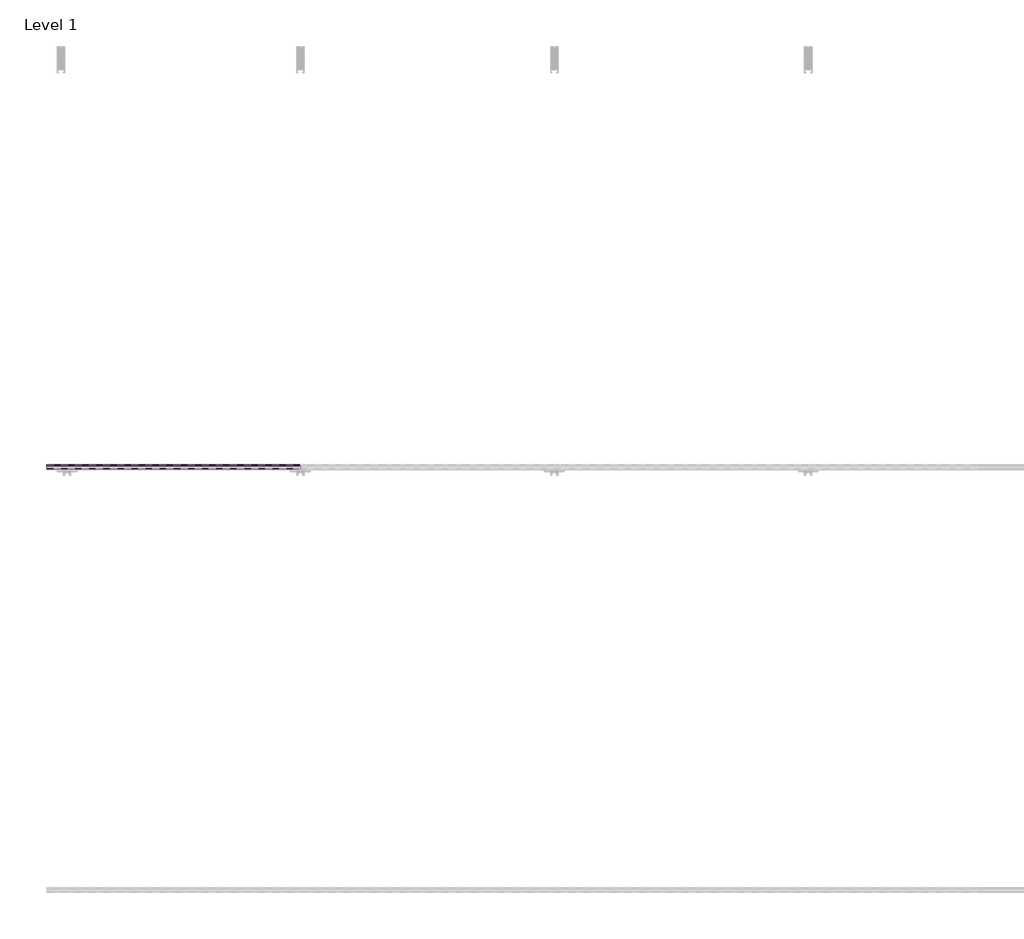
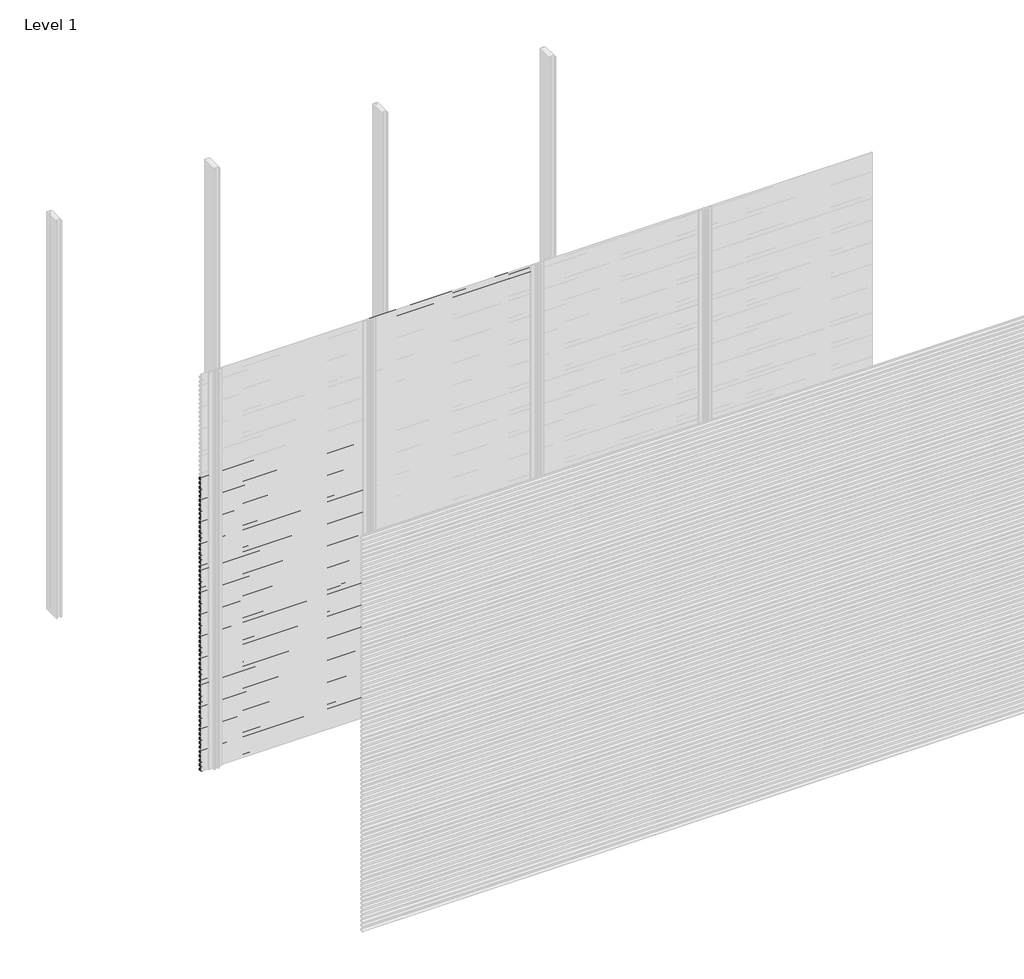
# One storey, part 5 of 77: 72 proxies.
"""IFC4 building model written with IfcOpenShell, lengths in millimetres."""

from ifc_helpers import new_model, si_unit, frame, origin, place, context, project, spatial, polyline, outline, extrude, element, save

model = new_model("IFC4")

# Units and contexts
model_context = context("Model", 3, world=origin())
ifc_project = project(units=[si_unit("LENGTHUNIT", "METRE", prefix="MILLI")], contexts=[model_context])

# Site, building, storey
site = spatial("IfcSite", under=ifc_project)
building = spatial("IfcBuilding", under=site)
storey = spatial("IfcBuildingStorey", under=building, Name="Level 1", Elevation=0.0)

# Proxies
placement = place(None, origin())
element("IfcBuildingElementProxy", 1, Name="Wall Sweeps", at=placement, inside=storey, context=model_context, shape_type="SweptSolid", body=[
    extrude(outline(polyline([(-53978.6, 2206.6359887), (-53998.0, 2217.8366691), (-53998.0, 2231.1), (-53997.0, 2231.1), (-53997.0, 2218.4191057), (-53977.6, 2207.2185105), (-53977.6, 2193.6185105), (-53978.6, 2195.1953129), (-53978.6, 2201.0032062), (-53995.9773817, 2192.9), (-53996.4, 2193.8063078), (-53978.6, 2202.1065841), (-53978.6, 2206.6359887)])), frame((0.0, 0.0, 0.0), z_axis=(1.0, 0.0, 0.0), x_axis=(0.0, 1.0, 0.0)), (0.0, 0.0, 1.0), 1200.0),
])
element("IfcBuildingElementProxy", 2, Name="Wall Sweeps", at=placement, inside=storey, context=model_context, shape_type="SweptSolid", body=[
    extrude(outline(polyline([(-53978.6, 2173.3359887), (-53998.0, 2184.5366691), (-53998.0, 2197.8), (-53997.0, 2197.8), (-53997.0, 2185.1191057), (-53977.6, 2173.9185105), (-53977.6, 2160.3185105), (-53978.6, 2161.8953129), (-53978.6, 2167.7032062), (-53995.9773817, 2159.6), (-53996.4, 2160.5063078), (-53978.6, 2168.8065841), (-53978.6, 2173.3359887)])), frame((0.0, 0.0, 0.0), z_axis=(1.0, 0.0, 0.0), x_axis=(0.0, 1.0, 0.0)), (0.0, 0.0, 1.0), 1200.0),
])
element("IfcBuildingElementProxy", 3, Name="Wall Sweeps", at=placement, inside=storey, context=model_context, shape_type="SweptSolid", body=[
    extrude(outline(polyline([(-53978.6, 2140.0359887), (-53998.0, 2151.2366691), (-53998.0, 2164.5), (-53997.0, 2164.5), (-53997.0, 2151.8191057), (-53977.6, 2140.6185105), (-53977.6, 2127.0185105), (-53978.6, 2128.5953129), (-53978.6, 2134.4032062), (-53995.9773817, 2126.3), (-53996.4, 2127.2063078), (-53978.6, 2135.5065841), (-53978.6, 2140.0359887)])), frame((0.0, 0.0, 0.0), z_axis=(1.0, 0.0, 0.0), x_axis=(0.0, 1.0, 0.0)), (0.0, 0.0, 1.0), 1200.0),
])
element("IfcBuildingElementProxy", 4, Name="Wall Sweeps", at=placement, inside=storey, context=model_context, shape_type="SweptSolid", body=[
    extrude(outline(polyline([(-53978.6, 2106.7359887), (-53998.0, 2117.9366691), (-53998.0, 2131.2), (-53997.0, 2131.2), (-53997.0, 2118.5191057), (-53977.6, 2107.3185105), (-53977.6, 2093.7185105), (-53978.6, 2095.2953129), (-53978.6, 2101.1032062), (-53995.9773817, 2093.0), (-53996.4, 2093.9063078), (-53978.6, 2102.2065841), (-53978.6, 2106.7359887)])), frame((0.0, 0.0, 0.0), z_axis=(1.0, 0.0, 0.0), x_axis=(0.0, 1.0, 0.0)), (0.0, 0.0, 1.0), 1200.0),
])
element("IfcBuildingElementProxy", 5, Name="Wall Sweeps", at=placement, inside=storey, context=model_context, shape_type="SweptSolid", body=[
    extrude(outline(polyline([(-53978.6, 2073.4359887), (-53998.0, 2084.6366691), (-53998.0, 2097.9), (-53997.0, 2097.9), (-53997.0, 2085.2191057), (-53977.6, 2074.0185105), (-53977.6, 2060.4185105), (-53978.6, 2061.9953129), (-53978.6, 2067.8032062), (-53995.9773817, 2059.7), (-53996.4, 2060.6063078), (-53978.6, 2068.9065841), (-53978.6, 2073.4359887)])), frame((0.0, 0.0, 0.0), z_axis=(1.0, 0.0, 0.0), x_axis=(0.0, 1.0, 0.0)), (0.0, 0.0, 1.0), 1200.0),
])
element("IfcBuildingElementProxy", 6, Name="Wall Sweeps", at=placement, inside=storey, context=model_context, shape_type="SweptSolid", body=[
    extrude(outline(polyline([(-53978.6, 2040.1359887), (-53998.0, 2051.3366691), (-53998.0, 2064.6), (-53997.0, 2064.6), (-53997.0, 2051.9191057), (-53977.6, 2040.7185105), (-53977.6, 2027.1185105), (-53978.6, 2028.6953129), (-53978.6, 2034.5032062), (-53995.9773817, 2026.4), (-53996.4, 2027.3063078), (-53978.6, 2035.6065841), (-53978.6, 2040.1359887)])), frame((0.0, 0.0, 0.0), z_axis=(1.0, 0.0, 0.0), x_axis=(0.0, 1.0, 0.0)), (0.0, 0.0, 1.0), 1200.0),
])
element("IfcBuildingElementProxy", 7, Name="Wall Sweeps", at=placement, inside=storey, context=model_context, shape_type="SweptSolid", body=[
    extrude(outline(polyline([(-53978.6, 2006.8359887), (-53998.0, 2018.0366691), (-53998.0, 2031.3), (-53997.0, 2031.3), (-53997.0, 2018.6191057), (-53977.6, 2007.4185105), (-53977.6, 1993.8185105), (-53978.6, 1995.3953129), (-53978.6, 2001.2032062), (-53995.9773817, 1993.1), (-53996.4, 1994.0063078), (-53978.6, 2002.3065841), (-53978.6, 2006.8359887)])), frame((0.0, 0.0, 0.0), z_axis=(1.0, 0.0, 0.0), x_axis=(0.0, 1.0, 0.0)), (0.0, 0.0, 1.0), 1200.0),
])
element("IfcBuildingElementProxy", 8, Name="Wall Sweeps", at=placement, inside=storey, context=model_context, shape_type="SweptSolid", body=[
    extrude(outline(polyline([(-53978.6, 1973.5359887), (-53998.0, 1984.7366691), (-53998.0, 1998.0), (-53997.0, 1998.0), (-53997.0, 1985.3191057), (-53977.6, 1974.1185105), (-53977.6, 1960.5185105), (-53978.6, 1962.0953129), (-53978.6, 1967.9032062), (-53995.9773817, 1959.8), (-53996.4, 1960.7063078), (-53978.6, 1969.0065841), (-53978.6, 1973.5359887)])), frame((0.0, 0.0, 0.0), z_axis=(1.0, 0.0, 0.0), x_axis=(0.0, 1.0, 0.0)), (0.0, 0.0, 1.0), 1200.0),
])
element("IfcBuildingElementProxy", 9, Name="Wall Sweeps", at=placement, inside=storey, context=model_context, shape_type="SweptSolid", body=[
    extrude(outline(polyline([(-53978.6, 1940.2359887), (-53998.0, 1951.4366691), (-53998.0, 1964.7), (-53997.0, 1964.7), (-53997.0, 1952.0191057), (-53977.6, 1940.8185105), (-53977.6, 1927.2185105), (-53978.6, 1928.7953129), (-53978.6, 1934.6032062), (-53995.9773817, 1926.5), (-53996.4, 1927.4063078), (-53978.6, 1935.7065841), (-53978.6, 1940.2359887)])), frame((0.0, 0.0, 0.0), z_axis=(1.0, 0.0, 0.0), x_axis=(0.0, 1.0, 0.0)), (0.0, 0.0, 1.0), 1200.0),
])
element("IfcBuildingElementProxy", 10, Name="Wall Sweeps", at=placement, inside=storey, context=model_context, shape_type="SweptSolid", body=[
    extrude(outline(polyline([(-53978.6, 1906.9359887), (-53998.0, 1918.1366691), (-53998.0, 1931.4), (-53997.0, 1931.4), (-53997.0, 1918.7191057), (-53977.6, 1907.5185105), (-53977.6, 1893.9185105), (-53978.6, 1895.4953129), (-53978.6, 1901.3032062), (-53995.9773817, 1893.2), (-53996.4, 1894.1063078), (-53978.6, 1902.4065841), (-53978.6, 1906.9359887)])), frame((0.0, 0.0, 0.0), z_axis=(1.0, 0.0, 0.0), x_axis=(0.0, 1.0, 0.0)), (0.0, 0.0, 1.0), 1200.0),
])
element("IfcBuildingElementProxy", 11, Name="Wall Sweeps", at=placement, inside=storey, context=model_context, shape_type="SweptSolid", body=[
    extrude(outline(polyline([(-53978.6, 1873.6359887), (-53998.0, 1884.8366691), (-53998.0, 1898.1), (-53997.0, 1898.1), (-53997.0, 1885.4191057), (-53977.6, 1874.2185105), (-53977.6, 1860.6185105), (-53978.6, 1862.1953129), (-53978.6, 1868.0032062), (-53995.9773817, 1859.9), (-53996.4, 1860.8063078), (-53978.6, 1869.1065841), (-53978.6, 1873.6359887)])), frame((0.0, 0.0, 0.0), z_axis=(1.0, 0.0, 0.0), x_axis=(0.0, 1.0, 0.0)), (0.0, 0.0, 1.0), 1200.0),
])
element("IfcBuildingElementProxy", 12, Name="Wall Sweeps", at=placement, inside=storey, context=model_context, shape_type="SweptSolid", body=[
    extrude(outline(polyline([(-53978.6, 1840.3359887), (-53998.0, 1851.5366691), (-53998.0, 1864.8), (-53997.0, 1864.8), (-53997.0, 1852.1191057), (-53977.6, 1840.9185105), (-53977.6, 1827.3185105), (-53978.6, 1828.8953129), (-53978.6, 1834.7032062), (-53995.9773817, 1826.6), (-53996.4, 1827.5063078), (-53978.6, 1835.8065841), (-53978.6, 1840.3359887)])), frame((0.0, 0.0, 0.0), z_axis=(1.0, 0.0, 0.0), x_axis=(0.0, 1.0, 0.0)), (0.0, 0.0, 1.0), 1200.0),
])
element("IfcBuildingElementProxy", 13, Name="Wall Sweeps", at=placement, inside=storey, context=model_context, shape_type="SweptSolid", body=[
    extrude(outline(polyline([(-53978.6, 1807.0359887), (-53998.0, 1818.2366691), (-53998.0, 1831.5), (-53997.0, 1831.5), (-53997.0, 1818.8191057), (-53977.6, 1807.6185105), (-53977.6, 1794.0185105), (-53978.6, 1795.5953129), (-53978.6, 1801.4032062), (-53995.9773817, 1793.3), (-53996.4, 1794.2063078), (-53978.6, 1802.5065841), (-53978.6, 1807.0359887)])), frame((0.0, 0.0, 0.0), z_axis=(1.0, 0.0, 0.0), x_axis=(0.0, 1.0, 0.0)), (0.0, 0.0, 1.0), 1200.0),
])
element("IfcBuildingElementProxy", 14, Name="Wall Sweeps", at=placement, inside=storey, context=model_context, shape_type="SweptSolid", body=[
    extrude(outline(polyline([(-53978.6, 1773.7359887), (-53998.0, 1784.9366691), (-53998.0, 1798.2), (-53997.0, 1798.2), (-53997.0, 1785.5191057), (-53977.6, 1774.3185105), (-53977.6, 1760.7185105), (-53978.6, 1762.2953129), (-53978.6, 1768.1032062), (-53995.9773817, 1760.0), (-53996.4, 1760.9063078), (-53978.6, 1769.2065841), (-53978.6, 1773.7359887)])), frame((0.0, 0.0, 0.0), z_axis=(1.0, 0.0, 0.0), x_axis=(0.0, 1.0, 0.0)), (0.0, 0.0, 1.0), 1200.0),
])
element("IfcBuildingElementProxy", 15, Name="Wall Sweeps", at=placement, inside=storey, context=model_context, shape_type="SweptSolid", body=[
    extrude(outline(polyline([(-53978.6, 1740.4359887), (-53998.0, 1751.6366691), (-53998.0, 1764.9), (-53997.0, 1764.9), (-53997.0, 1752.2191057), (-53977.6, 1741.0185105), (-53977.6, 1727.4185105), (-53978.6, 1728.9953129), (-53978.6, 1734.8032062), (-53995.9773817, 1726.7), (-53996.4, 1727.6063078), (-53978.6, 1735.9065841), (-53978.6, 1740.4359887)])), frame((0.0, 0.0, 0.0), z_axis=(1.0, 0.0, 0.0), x_axis=(0.0, 1.0, 0.0)), (0.0, 0.0, 1.0), 1200.0),
])
element("IfcBuildingElementProxy", 16, Name="Wall Sweeps", at=placement, inside=storey, context=model_context, shape_type="SweptSolid", body=[
    extrude(outline(polyline([(-53978.6, 1707.1359887), (-53998.0, 1718.3366691), (-53998.0, 1731.6), (-53997.0, 1731.6), (-53997.0, 1718.9191057), (-53977.6, 1707.7185105), (-53977.6, 1694.1185105), (-53978.6, 1695.6953129), (-53978.6, 1701.5032062), (-53995.9773817, 1693.4), (-53996.4, 1694.3063078), (-53978.6, 1702.6065841), (-53978.6, 1707.1359887)])), frame((0.0, 0.0, 0.0), z_axis=(1.0, 0.0, 0.0), x_axis=(0.0, 1.0, 0.0)), (0.0, 0.0, 1.0), 1200.0),
])
element("IfcBuildingElementProxy", 17, Name="Wall Sweeps", at=placement, inside=storey, context=model_context, shape_type="SweptSolid", body=[
    extrude(outline(polyline([(-53978.6, 1673.8359887), (-53998.0, 1685.0366691), (-53998.0, 1698.3), (-53997.0, 1698.3), (-53997.0, 1685.6191057), (-53977.6, 1674.4185105), (-53977.6, 1660.8185105), (-53978.6, 1662.3953129), (-53978.6, 1668.2032062), (-53995.9773817, 1660.1), (-53996.4, 1661.0063078), (-53978.6, 1669.3065841), (-53978.6, 1673.8359887)])), frame((0.0, 0.0, 0.0), z_axis=(1.0, 0.0, 0.0), x_axis=(0.0, 1.0, 0.0)), (0.0, 0.0, 1.0), 1200.0),
])
element("IfcBuildingElementProxy", 18, Name="Wall Sweeps", at=placement, inside=storey, context=model_context, shape_type="SweptSolid", body=[
    extrude(outline(polyline([(-53978.6, 1640.5359887), (-53998.0, 1651.7366691), (-53998.0, 1665.0), (-53997.0, 1665.0), (-53997.0, 1652.3191057), (-53977.6, 1641.1185105), (-53977.6, 1627.5185105), (-53978.6, 1629.0953129), (-53978.6, 1634.9032062), (-53995.9773817, 1626.8), (-53996.4, 1627.7063078), (-53978.6, 1636.0065841), (-53978.6, 1640.5359887)])), frame((0.0, 0.0, 0.0), z_axis=(1.0, 0.0, 0.0), x_axis=(0.0, 1.0, 0.0)), (0.0, 0.0, 1.0), 1200.0),
])
element("IfcBuildingElementProxy", 19, Name="Wall Sweeps", at=placement, inside=storey, context=model_context, shape_type="SweptSolid", body=[
    extrude(outline(polyline([(-53978.6, 1607.2359887), (-53998.0, 1618.4366691), (-53998.0, 1631.7), (-53997.0, 1631.7), (-53997.0, 1619.0191057), (-53977.6, 1607.8185105), (-53977.6, 1594.2185105), (-53978.6, 1595.7953129), (-53978.6, 1601.6032062), (-53995.9773817, 1593.5), (-53996.4, 1594.4063078), (-53978.6, 1602.7065841), (-53978.6, 1607.2359887)])), frame((0.0, 0.0, 0.0), z_axis=(1.0, 0.0, 0.0), x_axis=(0.0, 1.0, 0.0)), (0.0, 0.0, 1.0), 1200.0),
])
element("IfcBuildingElementProxy", 20, Name="Wall Sweeps", at=placement, inside=storey, context=model_context, shape_type="SweptSolid", body=[
    extrude(outline(polyline([(-53978.6, 1573.9359887), (-53998.0, 1585.1366691), (-53998.0, 1598.4), (-53997.0, 1598.4), (-53997.0, 1585.7191057), (-53977.6, 1574.5185105), (-53977.6, 1560.9185105), (-53978.6, 1562.4953129), (-53978.6, 1568.3032062), (-53995.9773817, 1560.2), (-53996.4, 1561.1063078), (-53978.6, 1569.4065841), (-53978.6, 1573.9359887)])), frame((0.0, 0.0, 0.0), z_axis=(1.0, 0.0, 0.0), x_axis=(0.0, 1.0, 0.0)), (0.0, 0.0, 1.0), 1200.0),
])
element("IfcBuildingElementProxy", 21, Name="Wall Sweeps", at=placement, inside=storey, context=model_context, shape_type="SweptSolid", body=[
    extrude(outline(polyline([(-53978.6, 1540.6359887), (-53998.0, 1551.8366691), (-53998.0, 1565.1), (-53997.0, 1565.1), (-53997.0, 1552.4191057), (-53977.6, 1541.2185105), (-53977.6, 1527.6185105), (-53978.6, 1529.1953129), (-53978.6, 1535.0032062), (-53995.9773817, 1526.9), (-53996.4, 1527.8063078), (-53978.6, 1536.1065841), (-53978.6, 1540.6359887)])), frame((0.0, 0.0, 0.0), z_axis=(1.0, 0.0, 0.0), x_axis=(0.0, 1.0, 0.0)), (0.0, 0.0, 1.0), 1200.0),
])
element("IfcBuildingElementProxy", 22, Name="Wall Sweeps", at=placement, inside=storey, context=model_context, shape_type="SweptSolid", body=[
    extrude(outline(polyline([(-53978.6, 1507.3359887), (-53998.0, 1518.5366691), (-53998.0, 1531.8), (-53997.0, 1531.8), (-53997.0, 1519.1191057), (-53977.6, 1507.9185105), (-53977.6, 1494.3185105), (-53978.6, 1495.8953129), (-53978.6, 1501.7032062), (-53995.9773817, 1493.6), (-53996.4, 1494.5063078), (-53978.6, 1502.8065841), (-53978.6, 1507.3359887)])), frame((0.0, 0.0, 0.0), z_axis=(1.0, 0.0, 0.0), x_axis=(0.0, 1.0, 0.0)), (0.0, 0.0, 1.0), 1200.0),
])
element("IfcBuildingElementProxy", 23, Name="Wall Sweeps", at=placement, inside=storey, context=model_context, shape_type="SweptSolid", body=[
    extrude(outline(polyline([(-53978.6, 1474.0359887), (-53998.0, 1485.2366691), (-53998.0, 1498.5), (-53997.0, 1498.5), (-53997.0, 1485.8191057), (-53977.6, 1474.6185105), (-53977.6, 1461.0185105), (-53978.6, 1462.5953129), (-53978.6, 1468.4032062), (-53995.9773817, 1460.3), (-53996.4, 1461.2063078), (-53978.6, 1469.5065841), (-53978.6, 1474.0359887)])), frame((0.0, 0.0, 0.0), z_axis=(1.0, 0.0, 0.0), x_axis=(0.0, 1.0, 0.0)), (0.0, 0.0, 1.0), 1200.0),
])
element("IfcBuildingElementProxy", 24, Name="Wall Sweeps", at=placement, inside=storey, context=model_context, shape_type="SweptSolid", body=[
    extrude(outline(polyline([(-53978.6, 1440.7359887), (-53998.0, 1451.9366691), (-53998.0, 1465.2), (-53997.0, 1465.2), (-53997.0, 1452.5191057), (-53977.6, 1441.3185105), (-53977.6, 1427.7185105), (-53978.6, 1429.2953129), (-53978.6, 1435.1032062), (-53995.9773817, 1427.0), (-53996.4, 1427.9063078), (-53978.6, 1436.2065841), (-53978.6, 1440.7359887)])), frame((0.0, 0.0, 0.0), z_axis=(1.0, 0.0, 0.0), x_axis=(0.0, 1.0, 0.0)), (0.0, 0.0, 1.0), 1200.0),
])
element("IfcBuildingElementProxy", 25, Name="Wall Sweeps", at=placement, inside=storey, context=model_context, shape_type="SweptSolid", body=[
    extrude(outline(polyline([(-53978.6, 1407.4359887), (-53998.0, 1418.6366691), (-53998.0, 1431.9), (-53997.0, 1431.9), (-53997.0, 1419.2191057), (-53977.6, 1408.0185105), (-53977.6, 1394.4185105), (-53978.6, 1395.9953129), (-53978.6, 1401.8032062), (-53995.9773817, 1393.7), (-53996.4, 1394.6063078), (-53978.6, 1402.9065841), (-53978.6, 1407.4359887)])), frame((0.0, 0.0, 0.0), z_axis=(1.0, 0.0, 0.0), x_axis=(0.0, 1.0, 0.0)), (0.0, 0.0, 1.0), 1200.0),
])
element("IfcBuildingElementProxy", 26, Name="Wall Sweeps", at=placement, inside=storey, context=model_context, shape_type="SweptSolid", body=[
    extrude(outline(polyline([(-53978.6, 1374.1359887), (-53998.0, 1385.3366691), (-53998.0, 1398.6), (-53997.0, 1398.6), (-53997.0, 1385.9191057), (-53977.6, 1374.7185105), (-53977.6, 1361.1185105), (-53978.6, 1362.6953129), (-53978.6, 1368.5032062), (-53995.9773817, 1360.4), (-53996.4, 1361.3063078), (-53978.6, 1369.6065841), (-53978.6, 1374.1359887)])), frame((0.0, 0.0, 0.0), z_axis=(1.0, 0.0, 0.0), x_axis=(0.0, 1.0, 0.0)), (0.0, 0.0, 1.0), 1200.0),
])
element("IfcBuildingElementProxy", 27, Name="Wall Sweeps", at=placement, inside=storey, context=model_context, shape_type="SweptSolid", body=[
    extrude(outline(polyline([(-53978.6, 1340.8359887), (-53998.0, 1352.0366691), (-53998.0, 1365.3), (-53997.0, 1365.3), (-53997.0, 1352.6191057), (-53977.6, 1341.4185105), (-53977.6, 1327.8185105), (-53978.6, 1329.3953129), (-53978.6, 1335.2032062), (-53995.9773817, 1327.1), (-53996.4, 1328.0063078), (-53978.6, 1336.3065841), (-53978.6, 1340.8359887)])), frame((0.0, 0.0, 0.0), z_axis=(1.0, 0.0, 0.0), x_axis=(0.0, 1.0, 0.0)), (0.0, 0.0, 1.0), 1200.0),
])
element("IfcBuildingElementProxy", 28, Name="Wall Sweeps", at=placement, inside=storey, context=model_context, shape_type="SweptSolid", body=[
    extrude(outline(polyline([(-53978.6, 1307.5359887), (-53998.0, 1318.7366691), (-53998.0, 1332.0), (-53997.0, 1332.0), (-53997.0, 1319.3191057), (-53977.6, 1308.1185105), (-53977.6, 1294.5185105), (-53978.6, 1296.0953129), (-53978.6, 1301.9032062), (-53995.9773817, 1293.8), (-53996.4, 1294.7063078), (-53978.6, 1303.0065841), (-53978.6, 1307.5359887)])), frame((0.0, 0.0, 0.0), z_axis=(1.0, 0.0, 0.0), x_axis=(0.0, 1.0, 0.0)), (0.0, 0.0, 1.0), 1200.0),
])
element("IfcBuildingElementProxy", 29, Name="Wall Sweeps", at=placement, inside=storey, context=model_context, shape_type="SweptSolid", body=[
    extrude(outline(polyline([(-53978.6, 1274.2359887), (-53998.0, 1285.4366691), (-53998.0, 1298.7), (-53997.0, 1298.7), (-53997.0, 1286.0191057), (-53977.6, 1274.8185105), (-53977.6, 1261.2185105), (-53978.6, 1262.7953129), (-53978.6, 1268.6032062), (-53995.9773817, 1260.5), (-53996.4, 1261.4063078), (-53978.6, 1269.7065841), (-53978.6, 1274.2359887)])), frame((0.0, 0.0, 0.0), z_axis=(1.0, 0.0, 0.0), x_axis=(0.0, 1.0, 0.0)), (0.0, 0.0, 1.0), 1200.0),
])
element("IfcBuildingElementProxy", 30, Name="Wall Sweeps", at=placement, inside=storey, context=model_context, shape_type="SweptSolid", body=[
    extrude(outline(polyline([(-53978.6, 1240.9359887), (-53998.0, 1252.1366691), (-53998.0, 1265.4), (-53997.0, 1265.4), (-53997.0, 1252.7191057), (-53977.6, 1241.5185105), (-53977.6, 1227.9185105), (-53978.6, 1229.4953129), (-53978.6, 1235.3032062), (-53995.9773817, 1227.2), (-53996.4, 1228.1063078), (-53978.6, 1236.4065841), (-53978.6, 1240.9359887)])), frame((0.0, 0.0, 0.0), z_axis=(1.0, 0.0, 0.0), x_axis=(0.0, 1.0, 0.0)), (0.0, 0.0, 1.0), 1200.0),
])
element("IfcBuildingElementProxy", 31, Name="Wall Sweeps", at=placement, inside=storey, context=model_context, shape_type="SweptSolid", body=[
    extrude(outline(polyline([(-53978.6, 1207.6359887), (-53998.0, 1218.8366691), (-53998.0, 1232.1), (-53997.0, 1232.1), (-53997.0, 1219.4191057), (-53977.6, 1208.2185105), (-53977.6, 1194.6185105), (-53978.6, 1196.1953129), (-53978.6, 1202.0032062), (-53995.9773817, 1193.9), (-53996.4, 1194.8063078), (-53978.6, 1203.1065841), (-53978.6, 1207.6359887)])), frame((0.0, 0.0, 0.0), z_axis=(1.0, 0.0, 0.0), x_axis=(0.0, 1.0, 0.0)), (0.0, 0.0, 1.0), 1200.0),
])
element("IfcBuildingElementProxy", 32, Name="Wall Sweeps", at=placement, inside=storey, context=model_context, shape_type="SweptSolid", body=[
    extrude(outline(polyline([(-53978.6, 1174.3359887), (-53998.0, 1185.5366691), (-53998.0, 1198.8), (-53997.0, 1198.8), (-53997.0, 1186.1191057), (-53977.6, 1174.9185105), (-53977.6, 1161.3185105), (-53978.6, 1162.8953129), (-53978.6, 1168.7032062), (-53995.9773817, 1160.6), (-53996.4, 1161.5063078), (-53978.6, 1169.8065841), (-53978.6, 1174.3359887)])), frame((0.0, 0.0, 0.0), z_axis=(1.0, 0.0, 0.0), x_axis=(0.0, 1.0, 0.0)), (0.0, 0.0, 1.0), 1200.0),
])
element("IfcBuildingElementProxy", 33, Name="Wall Sweeps", at=placement, inside=storey, context=model_context, shape_type="SweptSolid", body=[
    extrude(outline(polyline([(-53978.6, 1141.0359887), (-53998.0, 1152.2366691), (-53998.0, 1165.5), (-53997.0, 1165.5), (-53997.0, 1152.8191057), (-53977.6, 1141.6185105), (-53977.6, 1128.0185105), (-53978.6, 1129.5953129), (-53978.6, 1135.4032062), (-53995.9773817, 1127.3), (-53996.4, 1128.2063078), (-53978.6, 1136.5065841), (-53978.6, 1141.0359887)])), frame((0.0, 0.0, 0.0), z_axis=(1.0, 0.0, 0.0), x_axis=(0.0, 1.0, 0.0)), (0.0, 0.0, 1.0), 1200.0),
])
element("IfcBuildingElementProxy", 34, Name="Wall Sweeps", at=placement, inside=storey, context=model_context, shape_type="SweptSolid", body=[
    extrude(outline(polyline([(-53978.6, 1107.7359887), (-53998.0, 1118.9366691), (-53998.0, 1132.2), (-53997.0, 1132.2), (-53997.0, 1119.5191057), (-53977.6, 1108.3185105), (-53977.6, 1094.7185105), (-53978.6, 1096.2953129), (-53978.6, 1102.1032062), (-53995.9773817, 1094.0), (-53996.4, 1094.9063078), (-53978.6, 1103.2065841), (-53978.6, 1107.7359887)])), frame((0.0, 0.0, 0.0), z_axis=(1.0, 0.0, 0.0), x_axis=(0.0, 1.0, 0.0)), (0.0, 0.0, 1.0), 1200.0),
])
element("IfcBuildingElementProxy", 35, Name="Wall Sweeps", at=placement, inside=storey, context=model_context, shape_type="SweptSolid", body=[
    extrude(outline(polyline([(-53978.6, 1074.4359887), (-53998.0, 1085.6366691), (-53998.0, 1098.9), (-53997.0, 1098.9), (-53997.0, 1086.2191057), (-53977.6, 1075.0185105), (-53977.6, 1061.4185105), (-53978.6, 1062.9953129), (-53978.6, 1068.8032062), (-53995.9773817, 1060.7), (-53996.4, 1061.6063078), (-53978.6, 1069.9065841), (-53978.6, 1074.4359887)])), frame((0.0, 0.0, 0.0), z_axis=(1.0, 0.0, 0.0), x_axis=(0.0, 1.0, 0.0)), (0.0, 0.0, 1.0), 1200.0),
])
element("IfcBuildingElementProxy", 36, Name="Wall Sweeps", at=placement, inside=storey, context=model_context, shape_type="SweptSolid", body=[
    extrude(outline(polyline([(-53978.6, 1041.1359887), (-53998.0, 1052.3366691), (-53998.0, 1065.6), (-53997.0, 1065.6), (-53997.0, 1052.9191057), (-53977.6, 1041.7185105), (-53977.6, 1028.1185105), (-53978.6, 1029.6953129), (-53978.6, 1035.5032062), (-53995.9773817, 1027.4), (-53996.4, 1028.3063078), (-53978.6, 1036.6065841), (-53978.6, 1041.1359887)])), frame((0.0, 0.0, 0.0), z_axis=(1.0, 0.0, 0.0), x_axis=(0.0, 1.0, 0.0)), (0.0, 0.0, 1.0), 1200.0),
])
element("IfcBuildingElementProxy", 37, Name="Wall Sweeps", at=placement, inside=storey, context=model_context, shape_type="SweptSolid", body=[
    extrude(outline(polyline([(-53978.6, 1007.8359887), (-53998.0, 1019.0366691), (-53998.0, 1032.3), (-53997.0, 1032.3), (-53997.0, 1019.6191057), (-53977.6, 1008.4185105), (-53977.6, 994.8185105), (-53978.6, 996.3953129), (-53978.6, 1002.2032062), (-53995.9773817, 994.1), (-53996.4, 995.0063078), (-53978.6, 1003.3065841), (-53978.6, 1007.8359887)])), frame((0.0, 0.0, 0.0), z_axis=(1.0, 0.0, 0.0), x_axis=(0.0, 1.0, 0.0)), (0.0, 0.0, 1.0), 1200.0),
])
element("IfcBuildingElementProxy", 38, Name="Wall Sweeps", at=placement, inside=storey, context=model_context, shape_type="SweptSolid", body=[
    extrude(outline(polyline([(-53978.6, 974.5359887), (-53998.0, 985.7366691), (-53998.0, 999.0), (-53997.0, 999.0), (-53997.0, 986.3191057), (-53977.6, 975.1185105), (-53977.6, 961.5185105), (-53978.6, 963.0953129), (-53978.6, 968.9032062), (-53995.9773817, 960.8), (-53996.4, 961.7063078), (-53978.6, 970.0065841), (-53978.6, 974.5359887)])), frame((0.0, 0.0, 0.0), z_axis=(1.0, 0.0, 0.0), x_axis=(0.0, 1.0, 0.0)), (0.0, 0.0, 1.0), 1200.0),
])
element("IfcBuildingElementProxy", 39, Name="Wall Sweeps", at=placement, inside=storey, context=model_context, shape_type="SweptSolid", body=[
    extrude(outline(polyline([(-53978.6, 941.2359887), (-53998.0, 952.4366691), (-53998.0, 965.7), (-53997.0, 965.7), (-53997.0, 953.0191057), (-53977.6, 941.8185105), (-53977.6, 928.2185105), (-53978.6, 929.7953129), (-53978.6, 935.6032062), (-53995.9773817, 927.5), (-53996.4, 928.4063078), (-53978.6, 936.7065841), (-53978.6, 941.2359887)])), frame((0.0, 0.0, 0.0), z_axis=(1.0, 0.0, 0.0), x_axis=(0.0, 1.0, 0.0)), (0.0, 0.0, 1.0), 1200.0),
])
element("IfcBuildingElementProxy", 40, Name="Wall Sweeps", at=placement, inside=storey, context=model_context, shape_type="SweptSolid", body=[
    extrude(outline(polyline([(-53978.6, 907.9359887), (-53998.0, 919.1366691), (-53998.0, 932.4), (-53997.0, 932.4), (-53997.0, 919.7191057), (-53977.6, 908.5185105), (-53977.6, 894.9185105), (-53978.6, 896.4953129), (-53978.6, 902.3032062), (-53995.9773817, 894.2), (-53996.4, 895.1063078), (-53978.6, 903.4065841), (-53978.6, 907.9359887)])), frame((0.0, 0.0, 0.0), z_axis=(1.0, 0.0, 0.0), x_axis=(0.0, 1.0, 0.0)), (0.0, 0.0, 1.0), 1200.0),
])
element("IfcBuildingElementProxy", 41, Name="Wall Sweeps", at=placement, inside=storey, context=model_context, shape_type="SweptSolid", body=[
    extrude(outline(polyline([(-53978.6, 874.6359887), (-53998.0, 885.8366691), (-53998.0, 899.1), (-53997.0, 899.1), (-53997.0, 886.4191057), (-53977.6, 875.2185105), (-53977.6, 861.6185105), (-53978.6, 863.1953129), (-53978.6, 869.0032062), (-53995.9773817, 860.9), (-53996.4, 861.8063078), (-53978.6, 870.1065841), (-53978.6, 874.6359887)])), frame((0.0, 0.0, 0.0), z_axis=(1.0, 0.0, 0.0), x_axis=(0.0, 1.0, 0.0)), (0.0, 0.0, 1.0), 1200.0),
])
element("IfcBuildingElementProxy", 42, Name="Wall Sweeps", at=placement, inside=storey, context=model_context, shape_type="SweptSolid", body=[
    extrude(outline(polyline([(-53978.6, 841.3359887), (-53998.0, 852.5366691), (-53998.0, 865.8), (-53997.0, 865.8), (-53997.0, 853.1191057), (-53977.6, 841.9185105), (-53977.6, 828.3185105), (-53978.6, 829.8953129), (-53978.6, 835.7032062), (-53995.9773817, 827.6), (-53996.4, 828.5063078), (-53978.6, 836.8065841), (-53978.6, 841.3359887)])), frame((0.0, 0.0, 0.0), z_axis=(1.0, 0.0, 0.0), x_axis=(0.0, 1.0, 0.0)), (0.0, 0.0, 1.0), 1200.0),
])
element("IfcBuildingElementProxy", 43, Name="Wall Sweeps", at=placement, inside=storey, context=model_context, shape_type="SweptSolid", body=[
    extrude(outline(polyline([(-53978.6, 808.0359887), (-53998.0, 819.2366691), (-53998.0, 832.5), (-53997.0, 832.5), (-53997.0, 819.8191057), (-53977.6, 808.6185105), (-53977.6, 795.0185105), (-53978.6, 796.5953129), (-53978.6, 802.4032062), (-53995.9773817, 794.3), (-53996.4, 795.2063078), (-53978.6, 803.5065841), (-53978.6, 808.0359887)])), frame((0.0, 0.0, 0.0), z_axis=(1.0, 0.0, 0.0), x_axis=(0.0, 1.0, 0.0)), (0.0, 0.0, 1.0), 1200.0),
])
element("IfcBuildingElementProxy", 44, Name="Wall Sweeps", at=placement, inside=storey, context=model_context, shape_type="SweptSolid", body=[
    extrude(outline(polyline([(-53978.6, 774.7359887), (-53998.0, 785.9366691), (-53998.0, 799.2), (-53997.0, 799.2), (-53997.0, 786.5191057), (-53977.6, 775.3185105), (-53977.6, 761.7185105), (-53978.6, 763.2953129), (-53978.6, 769.1032062), (-53995.9773817, 761.0), (-53996.4, 761.9063078), (-53978.6, 770.2065841), (-53978.6, 774.7359887)])), frame((0.0, 0.0, 0.0), z_axis=(1.0, 0.0, 0.0), x_axis=(0.0, 1.0, 0.0)), (0.0, 0.0, 1.0), 1200.0),
])
element("IfcBuildingElementProxy", 45, Name="Wall Sweeps", at=placement, inside=storey, context=model_context, shape_type="SweptSolid", body=[
    extrude(outline(polyline([(-53978.6, 741.4359887), (-53998.0, 752.6366691), (-53998.0, 765.9), (-53997.0, 765.9), (-53997.0, 753.2191057), (-53977.6, 742.0185105), (-53977.6, 728.4185105), (-53978.6, 729.9953129), (-53978.6, 735.8032062), (-53995.9773817, 727.7), (-53996.4, 728.6063078), (-53978.6, 736.9065841), (-53978.6, 741.4359887)])), frame((0.0, 0.0, 0.0), z_axis=(1.0, 0.0, 0.0), x_axis=(0.0, 1.0, 0.0)), (0.0, 0.0, 1.0), 1200.0),
])
element("IfcBuildingElementProxy", 46, Name="Wall Sweeps", at=placement, inside=storey, context=model_context, shape_type="SweptSolid", body=[
    extrude(outline(polyline([(-53978.6, 708.1359887), (-53998.0, 719.3366691), (-53998.0, 732.6), (-53997.0, 732.6), (-53997.0, 719.9191057), (-53977.6, 708.7185105), (-53977.6, 695.1185105), (-53978.6, 696.6953129), (-53978.6, 702.5032062), (-53995.9773817, 694.4), (-53996.4, 695.3063078), (-53978.6, 703.6065841), (-53978.6, 708.1359887)])), frame((0.0, 0.0, 0.0), z_axis=(1.0, 0.0, 0.0), x_axis=(0.0, 1.0, 0.0)), (0.0, 0.0, 1.0), 1200.0),
])
element("IfcBuildingElementProxy", 47, Name="Wall Sweeps", at=placement, inside=storey, context=model_context, shape_type="SweptSolid", body=[
    extrude(outline(polyline([(-53978.6, 674.8359887), (-53998.0, 686.0366691), (-53998.0, 699.3), (-53997.0, 699.3), (-53997.0, 686.6191057), (-53977.6, 675.4185105), (-53977.6, 661.8185105), (-53978.6, 663.3953129), (-53978.6, 669.2032062), (-53995.9773817, 661.1), (-53996.4, 662.0063078), (-53978.6, 670.3065841), (-53978.6, 674.8359887)])), frame((0.0, 0.0, 0.0), z_axis=(1.0, 0.0, 0.0), x_axis=(0.0, 1.0, 0.0)), (0.0, 0.0, 1.0), 1200.0),
])
element("IfcBuildingElementProxy", 48, Name="Wall Sweeps", at=placement, inside=storey, context=model_context, shape_type="SweptSolid", body=[
    extrude(outline(polyline([(-53978.6, 641.5359887), (-53998.0, 652.7366691), (-53998.0, 666.0), (-53997.0, 666.0), (-53997.0, 653.3191057), (-53977.6, 642.1185105), (-53977.6, 628.5185105), (-53978.6, 630.0953129), (-53978.6, 635.9032062), (-53995.9773817, 627.8), (-53996.4, 628.7063078), (-53978.6, 637.0065841), (-53978.6, 641.5359887)])), frame((0.0, 0.0, 0.0), z_axis=(1.0, 0.0, 0.0), x_axis=(0.0, 1.0, 0.0)), (0.0, 0.0, 1.0), 1200.0),
])
element("IfcBuildingElementProxy", 49, Name="Wall Sweeps", at=placement, inside=storey, context=model_context, shape_type="SweptSolid", body=[
    extrude(outline(polyline([(-53978.6, 608.2359887), (-53998.0, 619.4366691), (-53998.0, 632.7), (-53997.0, 632.7), (-53997.0, 620.0191057), (-53977.6, 608.8185105), (-53977.6, 595.2185105), (-53978.6, 596.7953129), (-53978.6, 602.6032062), (-53995.9773817, 594.5), (-53996.4, 595.4063078), (-53978.6, 603.7065841), (-53978.6, 608.2359887)])), frame((0.0, 0.0, 0.0), z_axis=(1.0, 0.0, 0.0), x_axis=(0.0, 1.0, 0.0)), (0.0, 0.0, 1.0), 1200.0),
])
element("IfcBuildingElementProxy", 50, Name="Wall Sweeps", at=placement, inside=storey, context=model_context, shape_type="SweptSolid", body=[
    extrude(outline(polyline([(-53978.6, 574.9359887), (-53998.0, 586.1366691), (-53998.0, 599.4), (-53997.0, 599.4), (-53997.0, 586.7191057), (-53977.6, 575.5185105), (-53977.6, 561.9185105), (-53978.6, 563.4953129), (-53978.6, 569.3032062), (-53995.9773817, 561.2), (-53996.4, 562.1063078), (-53978.6, 570.4065841), (-53978.6, 574.9359887)])), frame((0.0, 0.0, 0.0), z_axis=(1.0, 0.0, 0.0), x_axis=(0.0, 1.0, 0.0)), (0.0, 0.0, 1.0), 1200.0),
])
element("IfcBuildingElementProxy", 51, Name="Wall Sweeps", at=placement, inside=storey, context=model_context, shape_type="SweptSolid", body=[
    extrude(outline(polyline([(-53978.6, 541.6359887), (-53998.0, 552.8366691), (-53998.0, 566.1), (-53997.0, 566.1), (-53997.0, 553.4191057), (-53977.6, 542.2185105), (-53977.6, 528.6185105), (-53978.6, 530.1953129), (-53978.6, 536.0032062), (-53995.9773817, 527.9), (-53996.4, 528.8063078), (-53978.6, 537.1065841), (-53978.6, 541.6359887)])), frame((0.0, 0.0, 0.0), z_axis=(1.0, 0.0, 0.0), x_axis=(0.0, 1.0, 0.0)), (0.0, 0.0, 1.0), 1200.0),
])
element("IfcBuildingElementProxy", 52, Name="Wall Sweeps", at=placement, inside=storey, context=model_context, shape_type="SweptSolid", body=[
    extrude(outline(polyline([(-53978.6, 508.3359887), (-53998.0, 519.5366691), (-53998.0, 532.8), (-53997.0, 532.8), (-53997.0, 520.1191057), (-53977.6, 508.9185105), (-53977.6, 495.3185105), (-53978.6, 496.8953129), (-53978.6, 502.7032062), (-53995.9773817, 494.6), (-53996.4, 495.5063078), (-53978.6, 503.8065841), (-53978.6, 508.3359887)])), frame((0.0, 0.0, 0.0), z_axis=(1.0, 0.0, 0.0), x_axis=(0.0, 1.0, 0.0)), (0.0, 0.0, 1.0), 1200.0),
])
element("IfcBuildingElementProxy", 53, Name="Wall Sweeps", at=placement, inside=storey, context=model_context, shape_type="SweptSolid", body=[
    extrude(outline(polyline([(-53978.6, 475.0359887), (-53998.0, 486.2366691), (-53998.0, 499.5), (-53997.0, 499.5), (-53997.0, 486.8191057), (-53977.6, 475.6185105), (-53977.6, 462.0185105), (-53978.6, 463.5953129), (-53978.6, 469.4032062), (-53995.9773817, 461.3), (-53996.4, 462.2063078), (-53978.6, 470.5065841), (-53978.6, 475.0359887)])), frame((0.0, 0.0, 0.0), z_axis=(1.0, 0.0, 0.0), x_axis=(0.0, 1.0, 0.0)), (0.0, 0.0, 1.0), 1200.0),
])
element("IfcBuildingElementProxy", 54, Name="Wall Sweeps", at=placement, inside=storey, context=model_context, shape_type="SweptSolid", body=[
    extrude(outline(polyline([(-53978.6, 441.7359887), (-53998.0, 452.9366691), (-53998.0, 466.2), (-53997.0, 466.2), (-53997.0, 453.5191057), (-53977.6, 442.3185105), (-53977.6, 428.7185105), (-53978.6, 430.2953129), (-53978.6, 436.1032062), (-53995.9773817, 428.0), (-53996.4, 428.9063078), (-53978.6, 437.2065841), (-53978.6, 441.7359887)])), frame((0.0, 0.0, 0.0), z_axis=(1.0, 0.0, 0.0), x_axis=(0.0, 1.0, 0.0)), (0.0, 0.0, 1.0), 1200.0),
])
element("IfcBuildingElementProxy", 55, Name="Wall Sweeps", at=placement, inside=storey, context=model_context, shape_type="SweptSolid", body=[
    extrude(outline(polyline([(-53978.6, 408.4359887), (-53998.0, 419.6366691), (-53998.0, 432.9), (-53997.0, 432.9), (-53997.0, 420.2191057), (-53977.6, 409.0185105), (-53977.6, 395.4185105), (-53978.6, 396.9953129), (-53978.6, 402.8032062), (-53995.9773817, 394.7), (-53996.4, 395.6063078), (-53978.6, 403.9065841), (-53978.6, 408.4359887)])), frame((0.0, 0.0, 0.0), z_axis=(1.0, 0.0, 0.0), x_axis=(0.0, 1.0, 0.0)), (0.0, 0.0, 1.0), 1200.0),
])
element("IfcBuildingElementProxy", 56, Name="Wall Sweeps", at=placement, inside=storey, context=model_context, shape_type="SweptSolid", body=[
    extrude(outline(polyline([(-53978.6, 375.1359887), (-53998.0, 386.3366691), (-53998.0, 399.6), (-53997.0, 399.6), (-53997.0, 386.9191057), (-53977.6, 375.7185105), (-53977.6, 362.1185105), (-53978.6, 363.6953129), (-53978.6, 369.5032062), (-53995.9773817, 361.4), (-53996.4, 362.3063078), (-53978.6, 370.6065841), (-53978.6, 375.1359887)])), frame((0.0, 0.0, 0.0), z_axis=(1.0, 0.0, 0.0), x_axis=(0.0, 1.0, 0.0)), (0.0, 0.0, 1.0), 1200.0),
])
element("IfcBuildingElementProxy", 57, Name="Wall Sweeps", at=placement, inside=storey, context=model_context, shape_type="SweptSolid", body=[
    extrude(outline(polyline([(-53978.6, 341.8359887), (-53998.0, 353.0366691), (-53998.0, 366.3), (-53997.0, 366.3), (-53997.0, 353.6191057), (-53977.6, 342.4185105), (-53977.6, 328.8185105), (-53978.6, 330.3953129), (-53978.6, 336.2032062), (-53995.9773817, 328.1), (-53996.4, 329.0063078), (-53978.6, 337.3065841), (-53978.6, 341.8359887)])), frame((0.0, 0.0, 0.0), z_axis=(1.0, 0.0, 0.0), x_axis=(0.0, 1.0, 0.0)), (0.0, 0.0, 1.0), 1200.0),
])
element("IfcBuildingElementProxy", 58, Name="Wall Sweeps", at=placement, inside=storey, context=model_context, shape_type="SweptSolid", body=[
    extrude(outline(polyline([(-53978.6, 308.5359887), (-53998.0, 319.7366691), (-53998.0, 333.0), (-53997.0, 333.0), (-53997.0, 320.3191057), (-53977.6, 309.1185105), (-53977.6, 295.5185105), (-53978.6, 297.0953129), (-53978.6, 302.9032062), (-53995.9773817, 294.8), (-53996.4, 295.7063078), (-53978.6, 304.0065841), (-53978.6, 308.5359887)])), frame((0.0, 0.0, 0.0), z_axis=(1.0, 0.0, 0.0), x_axis=(0.0, 1.0, 0.0)), (0.0, 0.0, 1.0), 1200.0),
])
element("IfcBuildingElementProxy", 59, Name="Wall Sweeps", at=placement, inside=storey, context=model_context, shape_type="SweptSolid", body=[
    extrude(outline(polyline([(-53978.6, 275.2359887), (-53998.0, 286.4366691), (-53998.0, 299.7), (-53997.0, 299.7), (-53997.0, 287.0191057), (-53977.6, 275.8185105), (-53977.6, 262.2185105), (-53978.6, 263.7953129), (-53978.6, 269.6032062), (-53995.9773817, 261.5), (-53996.4, 262.4063078), (-53978.6, 270.7065841), (-53978.6, 275.2359887)])), frame((0.0, 0.0, 0.0), z_axis=(1.0, 0.0, 0.0), x_axis=(0.0, 1.0, 0.0)), (0.0, 0.0, 1.0), 1200.0),
])
element("IfcBuildingElementProxy", 60, Name="Wall Sweeps", at=placement, inside=storey, context=model_context, shape_type="SweptSolid", body=[
    extrude(outline(polyline([(-53978.6, 241.9359887), (-53998.0, 253.1366691), (-53998.0, 266.4), (-53997.0, 266.4), (-53997.0, 253.7191057), (-53977.6, 242.5185105), (-53977.6, 228.9185105), (-53978.6, 230.4953129), (-53978.6, 236.3032062), (-53995.9773817, 228.2), (-53996.4, 229.1063078), (-53978.6, 237.4065841), (-53978.6, 241.9359887)])), frame((0.0, 0.0, 0.0), z_axis=(1.0, 0.0, 0.0), x_axis=(0.0, 1.0, 0.0)), (0.0, 0.0, 1.0), 1200.0),
])
element("IfcBuildingElementProxy", 61, Name="Wall Sweeps", at=placement, inside=storey, context=model_context, shape_type="SweptSolid", body=[
    extrude(outline(polyline([(-53978.6, 208.6359887), (-53998.0, 219.8366691), (-53998.0, 233.1), (-53997.0, 233.1), (-53997.0, 220.4191057), (-53977.6, 209.2185105), (-53977.6, 195.6185105), (-53978.6, 197.1953129), (-53978.6, 203.0032062), (-53995.9773817, 194.9), (-53996.4, 195.8063078), (-53978.6, 204.1065841), (-53978.6, 208.6359887)])), frame((0.0, 0.0, 0.0), z_axis=(1.0, 0.0, 0.0), x_axis=(0.0, 1.0, 0.0)), (0.0, 0.0, 1.0), 1200.0),
])
element("IfcBuildingElementProxy", 62, Name="Wall Sweeps", at=placement, inside=storey, context=model_context, shape_type="SweptSolid", body=[
    extrude(outline(polyline([(-53978.6, 175.3359887), (-53998.0, 186.5366691), (-53998.0, 199.8), (-53997.0, 199.8), (-53997.0, 187.1191057), (-53977.6, 175.9185105), (-53977.6, 162.3185105), (-53978.6, 163.8953129), (-53978.6, 169.7032062), (-53995.9773817, 161.6), (-53996.4, 162.5063078), (-53978.6, 170.8065841), (-53978.6, 175.3359887)])), frame((0.0, 0.0, 0.0), z_axis=(1.0, 0.0, 0.0), x_axis=(0.0, 1.0, 0.0)), (0.0, 0.0, 1.0), 1200.0),
])
element("IfcBuildingElementProxy", 63, Name="Wall Sweeps", at=placement, inside=storey, context=model_context, shape_type="SweptSolid", body=[
    extrude(outline(polyline([(-53978.6, 142.0359887), (-53998.0, 153.2366691), (-53998.0, 166.5), (-53997.0, 166.5), (-53997.0, 153.8191057), (-53977.6, 142.6185105), (-53977.6, 129.0185105), (-53978.6, 130.5953129), (-53978.6, 136.4032062), (-53995.9773817, 128.3), (-53996.4, 129.2063078), (-53978.6, 137.5065841), (-53978.6, 142.0359887)])), frame((0.0, 0.0, 0.0), z_axis=(1.0, 0.0, 0.0), x_axis=(0.0, 1.0, 0.0)), (0.0, 0.0, 1.0), 1200.0),
])
element("IfcBuildingElementProxy", 64, Name="Wall Sweeps", at=placement, inside=storey, context=model_context, shape_type="SweptSolid", body=[
    extrude(outline(polyline([(-53978.6, 108.7359887), (-53998.0, 119.9366691), (-53998.0, 133.2), (-53997.0, 133.2), (-53997.0, 120.5191057), (-53977.6, 109.3185105), (-53977.6, 95.7185105), (-53978.6, 97.2953129), (-53978.6, 103.1032062), (-53995.9773817, 95.0), (-53996.4, 95.9063078), (-53978.6, 104.2065841), (-53978.6, 108.7359887)])), frame((0.0, 0.0, 0.0), z_axis=(1.0, 0.0, 0.0), x_axis=(0.0, 1.0, 0.0)), (0.0, 0.0, 1.0), 1200.0),
])
element("IfcBuildingElementProxy", 65, Name="Wall Sweeps", at=placement, inside=storey, context=model_context, shape_type="SweptSolid", body=[
    extrude(outline(polyline([(-53978.6, 75.4359887), (-53998.0, 86.6366691), (-53998.0, 99.9), (-53997.0, 99.9), (-53997.0, 87.2191057), (-53977.6, 76.0185105), (-53977.6, 62.4185105), (-53978.6, 63.9953129), (-53978.6, 69.8032062), (-53995.9773817, 61.7), (-53996.4, 62.6063078), (-53978.6, 70.9065841), (-53978.6, 75.4359887)])), frame((0.0, 0.0, 0.0), z_axis=(1.0, 0.0, 0.0), x_axis=(0.0, 1.0, 0.0)), (0.0, 0.0, 1.0), 1200.0),
])
element("IfcBuildingElementProxy", 66, Name="Wall Sweeps", at=placement, inside=storey, context=model_context, shape_type="SweptSolid", body=[
    extrude(outline(polyline([(-53978.6, 42.1359887), (-53998.0, 53.3366691), (-53998.0, 66.6), (-53997.0, 66.6), (-53997.0, 53.9191057), (-53977.6, 42.7185105), (-53977.6, 29.1185105), (-53978.6, 30.6953129), (-53978.6, 36.5032062), (-53995.9773817, 28.4), (-53996.4, 29.3063078), (-53978.6, 37.6065841), (-53978.6, 42.1359887)])), frame((0.0, 0.0, 0.0), z_axis=(1.0, 0.0, 0.0), x_axis=(0.0, 1.0, 0.0)), (0.0, 0.0, 1.0), 1200.0),
])
element("IfcBuildingElementProxy", 67, Name="Wall Sweeps", at=placement, inside=storey, context=model_context, shape_type="SweptSolid", body=[
    extrude(outline(polyline([(-53978.6, 8.8359887), (-53998.0, 20.0366691), (-53998.0, 33.3), (-53997.0, 33.3), (-53997.0, 20.6191057), (-53977.6, 9.4185105), (-53977.6, -4.1814895), (-53978.6, -2.6046871), (-53978.6, 3.2032062), (-53995.9773817, -4.9), (-53996.4, -3.9936922), (-53978.6, 4.3065841), (-53978.6, 8.8359887)])), frame((0.0, 0.0, 0.0), z_axis=(1.0, 0.0, 0.0), x_axis=(0.0, 1.0, 0.0)), (0.0, 0.0, 1.0), 1200.0),
])
element("IfcBuildingElementProxy", 68, Name="Wall Sweeps", at=placement, inside=storey, context=model_context, shape_type="SweptSolid", body=[
    extrude(outline(polyline([(-53978.6, 2972.5359887), (-53998.0, 2983.7366691), (-53998.0, 2997.0), (-53997.0, 2997.0), (-53997.0, 2984.3191057), (-53977.6, 2973.1185105), (-53977.6, 2959.5185105), (-53978.6, 2961.0953129), (-53978.6, 2966.9032062), (-53995.9773817, 2958.8), (-53996.4, 2959.7063078), (-53978.6, 2968.0065841), (-53978.6, 2972.5359887)])), frame((1200.0, 0.0, 0.0), z_axis=(1.0, 0.0, 0.0), x_axis=(0.0, 1.0, 0.0)), (0.0, 0.0, 1.0), 1200.0),
])
element("IfcBuildingElementProxy", 69, Name="Wall Sweeps", at=placement, inside=storey, context=model_context, shape_type="SweptSolid", body=[
    extrude(outline(polyline([(-53978.6, 2939.2359887), (-53998.0, 2950.4366691), (-53998.0, 2963.7), (-53997.0, 2963.7), (-53997.0, 2951.0191057), (-53977.6, 2939.8185105), (-53977.6, 2926.2185105), (-53978.6, 2927.7953129), (-53978.6, 2933.6032062), (-53995.9773817, 2925.5), (-53996.4, 2926.4063078), (-53978.6, 2934.7065841), (-53978.6, 2939.2359887)])), frame((1200.0, 0.0, 0.0), z_axis=(1.0, 0.0, 0.0), x_axis=(0.0, 1.0, 0.0)), (0.0, 0.0, 1.0), 1200.0),
])
element("IfcBuildingElementProxy", 70, Name="Wall Sweeps", at=placement, inside=storey, context=model_context, shape_type="SweptSolid", body=[
    extrude(outline(polyline([(-53978.6, 2905.9359887), (-53998.0, 2917.1366691), (-53998.0, 2930.4), (-53997.0, 2930.4), (-53997.0, 2917.7191057), (-53977.6, 2906.5185105), (-53977.6, 2892.9185105), (-53978.6, 2894.4953129), (-53978.6, 2900.3032062), (-53995.9773817, 2892.2), (-53996.4, 2893.1063078), (-53978.6, 2901.4065841), (-53978.6, 2905.9359887)])), frame((1200.0, 0.0, 0.0), z_axis=(1.0, 0.0, 0.0), x_axis=(0.0, 1.0, 0.0)), (0.0, 0.0, 1.0), 1200.0),
])
element("IfcBuildingElementProxy", 71, Name="Wall Sweeps", at=placement, inside=storey, context=model_context, shape_type="SweptSolid", body=[
    extrude(outline(polyline([(-53978.6, 2872.6359887), (-53998.0, 2883.8366691), (-53998.0, 2897.1), (-53997.0, 2897.1), (-53997.0, 2884.4191057), (-53977.6, 2873.2185105), (-53977.6, 2859.6185105), (-53978.6, 2861.1953129), (-53978.6, 2867.0032062), (-53995.9773817, 2858.9), (-53996.4, 2859.8063078), (-53978.6, 2868.1065841), (-53978.6, 2872.6359887)])), frame((1200.0, 0.0, 0.0), z_axis=(1.0, 0.0, 0.0), x_axis=(0.0, 1.0, 0.0)), (0.0, 0.0, 1.0), 1200.0),
])
element("IfcBuildingElementProxy", 72, Name="Wall Sweeps", at=placement, inside=storey, context=model_context, shape_type="SweptSolid", body=[
    extrude(outline(polyline([(-53978.6, 2839.3359887), (-53998.0, 2850.5366691), (-53998.0, 2863.8), (-53997.0, 2863.8), (-53997.0, 2851.1191057), (-53977.6, 2839.9185105), (-53977.6, 2826.3185105), (-53978.6, 2827.8953129), (-53978.6, 2833.7032062), (-53995.9773817, 2825.6), (-53996.4, 2826.5063078), (-53978.6, 2834.8065841), (-53978.6, 2839.3359887)])), frame((1200.0, 0.0, 0.0), z_axis=(1.0, 0.0, 0.0), x_axis=(0.0, 1.0, 0.0)), (0.0, 0.0, 1.0), 1200.0),
])

save(model, "model.ifc")
